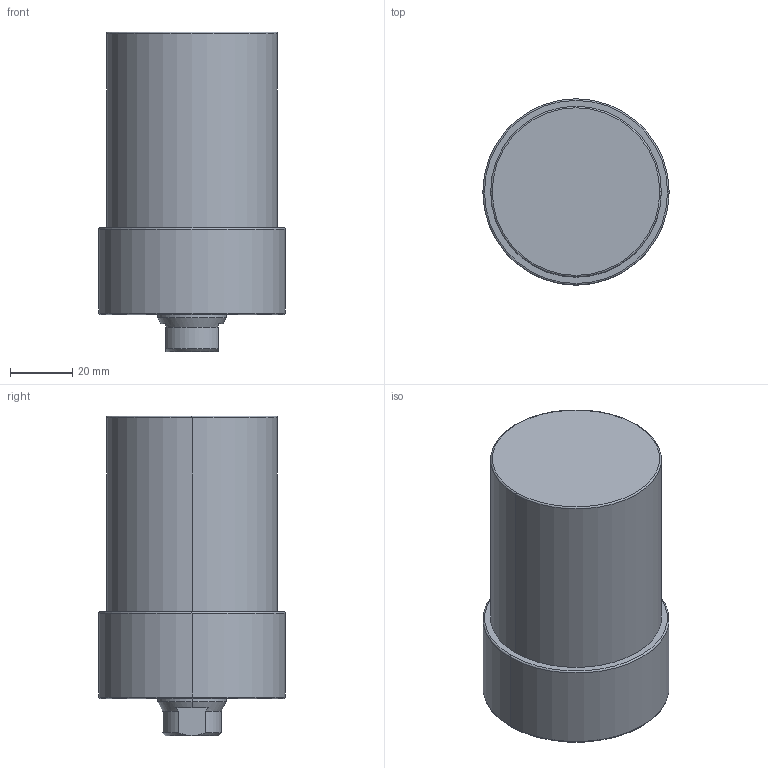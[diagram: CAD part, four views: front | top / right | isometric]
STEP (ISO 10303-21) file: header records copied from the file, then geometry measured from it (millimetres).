
FILE_DESCRIPTION (( 'STEP AP203' ), '1' );
FILE_NAME ('CLLU055-CA-060.STEP', '2017-05-12T11:08:03', ( '' ), ( '' ), 'SwSTEP 2.0', 'SolidWorks 2015', '' );
FILE_SCHEMA (( 'CONFIG_CONTROL_DESIGN' ));
Length unit declared in the file: millimetre
Products named in the file (1): CLLU055-CA-060
Bounding box: 60 x 60 x 103 mm (x, y, z)
Volume: 229178.3 mm3; surface area: 24208.3 mm2
Topology: 1 solids, 1 shells, 62 faces, 138 edges, 77 vertices
Faces by surface type: cone 24, cylinder 22, plane 10, torus 6
Entity records: 1745 total; most frequent: DIRECTION 318, CARTESIAN_POINT 308, ORIENTED_EDGE 256, AXIS2_PLACEMENT_3D 135, EDGE_CURVE 128, VERTEX_POINT 77, CIRCLE 72, EDGE_LOOP 71
